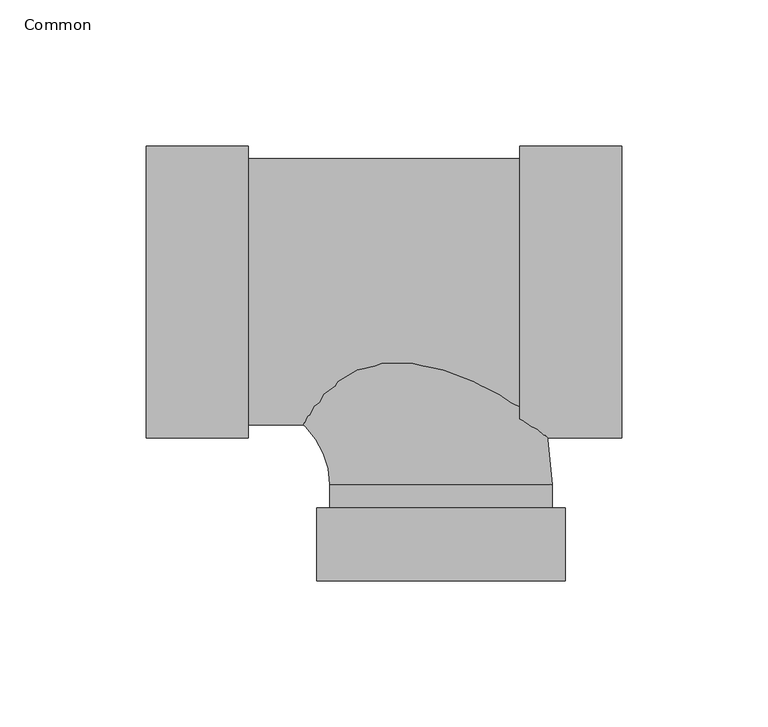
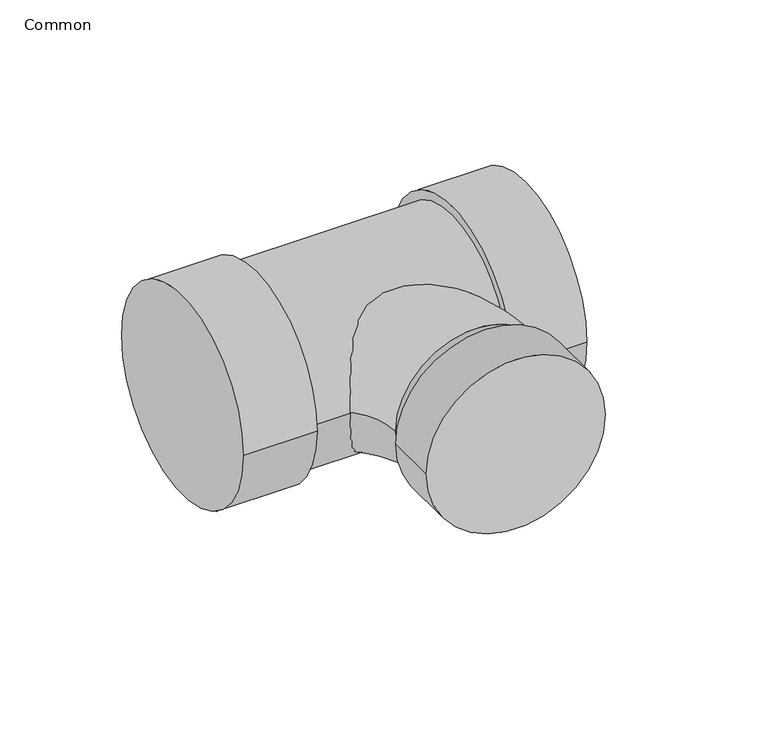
"""IFC4 building model written with IfcOpenShell, lengths in millimetres: pipe fitting geometry, 021_径違い90° 大曲がり Y : Common."""

from ifc_helpers import new_model, si_unit, point, frame, frame_2d, origin, origin_2d, place, context, project, spatial, circle_curve, ellipse_curve, trimmed, segment, composite_curve, outline, extrude, source, transform, mapped, element, save
from ifc_brep_helpers import plane_surface, cylinder_surface, revolved_surface, advanced_brep


def common_e0ad3d5b(model_context):
    return source(origin(), model_context, "Body", "SolidModel", [
        advanced_brep(
        [(-101.0, -50.0, 0.0), (-101.0, 50.0, 0.0), (-66.0, -50.0, 0.0), (-66.0, 50.0, 0.0), (-66.0, -38.13, 0.0), (-66.0, 38.13, 0.0), (38.13, -66.0, 0.0), (-38.13, -66.0, 0.0), (0.0, -66.0, 38.13), (0.0, -66.0, -38.13), (-42.505, -99.0, 0.0), (42.505, -99.0, 0.0), (-38.13, -74.0, 0.0), (38.13, -74.0, 0.0), (-42.505, -74.0, 0.0), (42.505, -74.0, 0.0)],
        [
            (0, 1, circle_curve(frame((-101.0, 0.0, 0.0), z_axis=(-1.0, 0.0, 0.0), x_axis=(0.0, 1.0, 0.0)), 50.0)),
            (1, 0, circle_curve(frame((-101.0, 0.0, 0.0), z_axis=(-1.0, 0.0, 0.0), x_axis=(0.0, 1.0, 0.0)), 50.0)),
            (2, 3, circle_curve(frame((-66.0, 0.0, 0.0), z_axis=(1.0, 0.0, 0.0), x_axis=(0.0, 1.0, 0.0)), 50.0)),
            (3, 2, circle_curve(frame((-66.0, 0.0, 0.0), z_axis=(1.0, 0.0, 0.0), x_axis=(0.0, 1.0, 0.0)), 50.0)),
            (4, 5, circle_curve(frame((-66.0, 0.0, 0.0), z_axis=(-1.0, 0.0, 0.0), x_axis=(0.0, 1.0, 0.0)), 38.13)),
            (5, 4, circle_curve(frame((-66.0, 0.0, 0.0), z_axis=(-1.0, 0.0, 0.0), x_axis=(0.0, 1.0, 0.0)), 38.13)),
            (0, 2),
            (3, 1),
            (6, 5, circle_curve(frame((-66.0, -66.0, 0.0), z_axis=(0.0, 0.0, 1.0), x_axis=(0.0, 1.0, 0.0)), 104.13)),
            (4, 7, circle_curve(frame((-66.0, -66.0, 0.0), z_axis=(0.0, 0.0, -1.0), x_axis=(0.0, 1.0, 0.0)), 27.87)),
            (7, 8, circle_curve(frame((0.0, -66.0, 0.0), z_axis=(0.0, 1.0, 0.0), x_axis=(1.0, 0.0, 0.0)), 38.13)),
            (8, 6, circle_curve(frame((0.0, -66.0, 0.0), z_axis=(0.0, 1.0, 0.0), x_axis=(1.0, 0.0, 0.0)), 38.13)),
            (6, 9, circle_curve(frame((0.0, -66.0, 0.0), z_axis=(0.0, 1.0, 0.0), x_axis=(1.0, 0.0, 0.0)), 38.13)),
            (9, 7, circle_curve(frame((0.0, -66.0, 0.0), z_axis=(0.0, 1.0, 0.0), x_axis=(1.0, 0.0, 0.0)), 38.13)),
            (10, 11, circle_curve(frame((0.0, -99.0, 0.0), z_axis=(0.0, -1.0, 0.0), x_axis=(1.0, 0.0, 0.0)), 42.505)),
            (11, 10, circle_curve(frame((0.0, -99.0, 0.0), z_axis=(0.0, -1.0, 0.0), x_axis=(1.0, 0.0, 0.0)), 42.505)),
            (7, 12),
            (12, 13, circle_curve(frame((0.0, -74.0, 0.0), z_axis=(0.0, 1.0, 0.0), x_axis=(1.0, 0.0, 0.0)), 38.13)),
            (13, 6),
            (13, 12, circle_curve(frame((0.0, -74.0, 0.0), z_axis=(0.0, 1.0, 0.0), x_axis=(1.0, 0.0, 0.0)), 38.13)),
            (14, 15, circle_curve(frame((0.0, -74.0, 0.0), z_axis=(0.0, 1.0, 0.0), x_axis=(1.0, 0.0, 0.0)), 42.505)),
            (15, 14, circle_curve(frame((0.0, -74.0, 0.0), z_axis=(0.0, 1.0, 0.0), x_axis=(1.0, 0.0, 0.0)), 42.505)),
            (14, 10),
            (11, 15),
        ],
        [
            plane_surface(frame((-101.0, 0.0, 0.0), z_axis=(-1.0, 0.0, 0.0), x_axis=(0.0, 0.0, 1.0))),
            plane_surface(frame((-66.0, 0.0, 0.0), z_axis=(1.0, 0.0, 0.0), x_axis=(0.0, 0.0, 1.0))),
            cylinder_surface(frame((-101.0, 0.0, 0.0), z_axis=(-1.0, 0.0, 0.0), x_axis=(0.0, 1.0, 0.0)), 50.0),
            revolved_surface(trimmed(ellipse_curve(frame((-66.0, 0.0, 0.0), z_axis=(-1.0, 0.0, 0.0), x_axis=(0.0, 1.0, 0.0)), 38.13, 38.13), [point((-66.0, -38.13, 0.0))], [point((-66.0, 38.13, 0.0))], True, "CARTESIAN"), (-66.0, -66.0, 0.0), (0.0, 0.0, -1.0)),
            revolved_surface(trimmed(ellipse_curve(frame((-66.0, 0.0, 0.0), z_axis=(-1.0, 0.0, 0.0), x_axis=(0.0, 1.0, 0.0)), 38.13, 38.13), [point((-66.0, 38.13, 0.0))], [point((-66.0, -38.13, 0.0))], True, "CARTESIAN"), (-66.0, -66.0, 0.0), (0.0, 0.0, -1.0)),
            plane_surface(frame((0.0, -99.0, 0.0), z_axis=(0.0, -1.0, 0.0), x_axis=(0.0, 0.0, 1.0))),
            cylinder_surface(frame((0.0, -66.0, 0.0), z_axis=(0.0, 1.0, 0.0), x_axis=(1.0, 0.0, 0.0)), 38.13),
            plane_surface(frame((0.0, -74.0, 0.0), z_axis=(0.0, 1.0, 0.0), x_axis=(0.0, 0.0, 1.0))),
            cylinder_surface(frame((0.0, -74.0, 0.0), z_axis=(0.0, 1.0, 0.0), x_axis=(1.0, 0.0, 0.0)), 42.505),
        ],
        [
            (0, [[1, 2]]),
            (1, [[3, 4], [5, 6]]),
            (2, [[-1, 7, -4, 8]]),
            (2, [[-2, -8, -3, -7]]),
            (3, [[9, -5, 10, 11, 12]]),
            (4, [[-9, 13, 14, -10, -6]]),
            (5, [[15, 16]]),
            (6, [[-11, 17, 18, 19, -12]]),
            (6, [[-14, -13, -19, 20, -17]]),
            (7, [[21, 22], [-18, -20]]),
            (8, [[-21, 23, -16, 24]]),
            (8, [[-22, -24, -15, -23]]),
        ],
    ),
        extrude(outline(composite_curve([segment(trimmed(circle_curve(frame_2d((0.0112757, 0.0)), 45.65), [point((-45.6387243, 0.0))], [point((45.6612757, 0.0))], False, "CARTESIAN"), True, "CONTINUOUS"), segment(trimmed(circle_curve(frame_2d((0.0112757, 0.0)), 45.65), [point((45.6612757, 0.0))], [point((-45.6387243, 0.0))], False, "CARTESIAN"), True, "CONTINUOUS")], self_intersect=False)), frame((-66.0, 0.0, 0.0), z_axis=(1.0, 0.0, 0.0), x_axis=(0.0, 1.0, 0.0)), (0.0, 0.0, 1.0), 93.0),
        extrude(outline(composite_curve([segment(trimmed(circle_curve(origin_2d(), 50.0), [point((-50.0, 0.0))], [point((50.0, 0.0))], False, "CARTESIAN"), True, "CONTINUOUS"), segment(trimmed(circle_curve(origin_2d(), 50.0), [point((50.0, 0.0))], [point((-50.0, 0.0))], False, "CARTESIAN"), True, "CONTINUOUS")], self_intersect=False)), frame((27.0, 0.0, 0.0), z_axis=(1.0, 0.0, 0.0), x_axis=(0.0, 1.0, 0.0)), (0.0, 0.0, 1.0), 35.0),
    ])


if __name__ == "__main__":
    model = new_model("IFC4")
    model_context = context("Model", 3, world=origin())
    ifc_project = project(units=[si_unit("LENGTHUNIT", "METRE", prefix="MILLI")], contexts=[model_context])
    site = spatial("IfcSite", under=ifc_project)
    building = spatial("IfcBuilding", under=site)
    placement = place(None, origin())
    common_shape = common_e0ad3d5b(model_context)
    element("IfcPipeFitting", 1, ObjectType="021_径違い90° 大曲がり Y : Common", at=placement, inside=building, context=model_context, shape_type="MappedRepresentation", body=[
        mapped(common_shape, transform((0.0, 0.0, 0.0), x_axis=(1.0, 0.0, 0.0), y_axis=(0.0, 1.0, 0.0), z_axis=(0.0, 0.0, 1.0))),
    ])
    save(model, "model.ifc")
